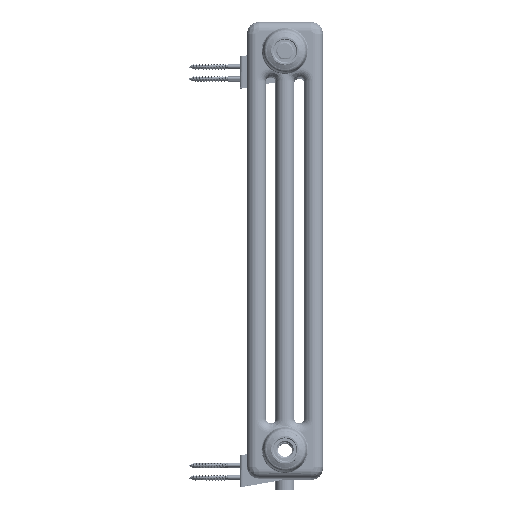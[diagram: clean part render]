
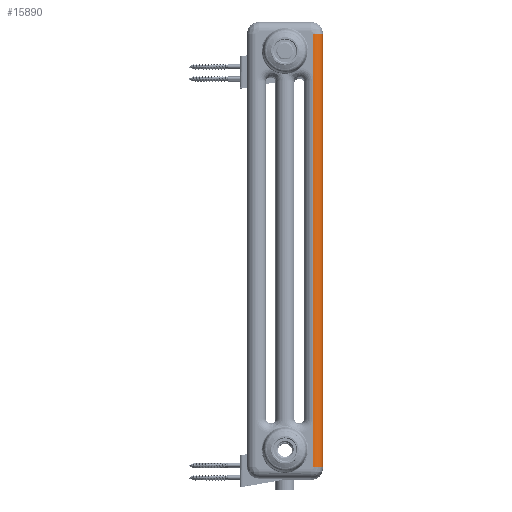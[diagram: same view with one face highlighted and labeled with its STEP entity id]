
A CAD part, top view. The second image highlights one B-rep face of the part: STEP entity #15890.
In plain terms, the highlighted cylindrical face has radius 12.5 mm (diameter 25 mm), a partial arc.
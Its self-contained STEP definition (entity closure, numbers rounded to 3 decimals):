
#6437=CIRCLE('',#128632,12.5);
#6461=CIRCLE('',#128669,12.5);
#15890=ADVANCED_FACE('',(#26022),#23967,.T.);
#23967=CYLINDRICAL_SURFACE('',#128670,12.5);
#26022=FACE_OUTER_BOUND('',#34247,.T.);
#34247=EDGE_LOOP('',(#52265,#52266,#52267,#52268,#52269,#52270,#52271,#52272));
#42631=LINE('',#179565,#47074);
#42632=LINE('',#179588,#47075);
#42641=LINE('',#179667,#47084);
#42642=LINE('',#179668,#47085);
#42643=LINE('',#179670,#47086);
#42644=LINE('',#179674,#47087);
#47074=VECTOR('',#142596,1.);
#47075=VECTOR('',#142605,1.);
#47084=VECTOR('',#142682,1.);
#47085=VECTOR('',#142683,1.);
#47086=VECTOR('',#142686,1.);
#47087=VECTOR('',#142689,1.);
#52265=ORIENTED_EDGE('',*,*,#102721,.F.);
#52266=ORIENTED_EDGE('',*,*,#102722,.F.);
#52267=ORIENTED_EDGE('',*,*,#102723,.F.);
#52268=ORIENTED_EDGE('',*,*,#102720,.T.);
#52269=ORIENTED_EDGE('',*,*,#102688,.T.);
#52270=ORIENTED_EDGE('',*,*,#102686,.T.);
#52271=ORIENTED_EDGE('',*,*,#102684,.T.);
#52272=ORIENTED_EDGE('',*,*,#102719,.T.);
#91055=VERTEX_POINT('',#179558);
#91056=VERTEX_POINT('',#179562);
#91057=VERTEX_POINT('',#179566);
#91058=VERTEX_POINT('',#179570);
#91077=VERTEX_POINT('',#179664);
#91078=VERTEX_POINT('',#179666);
#91079=VERTEX_POINT('',#179671);
#91080=VERTEX_POINT('',#179673);
#102684=EDGE_CURVE('',#91057,#91055,#42631,.T.);
#102686=EDGE_CURVE('',#91058,#91057,#6437,.T.);
#102688=EDGE_CURVE('',#91056,#91058,#42632,.T.);
#102719=EDGE_CURVE('',#91055,#91078,#42641,.T.);
#102720=EDGE_CURVE('',#91077,#91056,#42642,.T.);
#102721=EDGE_CURVE('',#91079,#91078,#42643,.T.);
#102722=EDGE_CURVE('',#91080,#91079,#6461,.T.);
#102723=EDGE_CURVE('',#91077,#91080,#42644,.T.);
#128632=AXIS2_PLACEMENT_3D('',#179569,#142601,#142602);
#128669=AXIS2_PLACEMENT_3D('',#179672,#142687,#142688);
#128670=AXIS2_PLACEMENT_3D('',#179675,#142690,#142691);
#142596=DIRECTION('',(0.,1.,0.));
#142601=DIRECTION('',(0.,1.,0.));
#142602=DIRECTION('',(0.,0.,1.));
#142605=DIRECTION('',(0.,-1.,0.));
#142682=DIRECTION('',(0.,1.,0.));
#142683=DIRECTION('',(0.,-1.,0.));
#142686=DIRECTION('',(0.,-1.,0.));
#142687=DIRECTION('',(0.,1.,0.));
#142688=DIRECTION('',(0.,0.,1.));
#142689=DIRECTION('',(0.,1.,0.));
#142690=DIRECTION('',(0.,-1.,0.));
#142691=DIRECTION('',(0.,0.,1.));
#179558=CARTESIAN_POINT('',(87.5,78.,-35.));
#179562=CARTESIAN_POINT('',(87.5,78.,-10.));
#179565=CARTESIAN_POINT('',(87.5,15.5,-35.));
#179566=CARTESIAN_POINT('',(87.5,15.5,-35.));
#179569=CARTESIAN_POINT('',(87.5,15.5,-22.5));
#179570=CARTESIAN_POINT('',(87.5,15.5,-10.));
#179588=CARTESIAN_POINT('',(87.5,78.,-10.));
#179664=CARTESIAN_POINT('',(87.5,522.,-10.));
#179666=CARTESIAN_POINT('',(87.5,522.,-35.));
#179667=CARTESIAN_POINT('',(87.5,78.,-35.));
#179668=CARTESIAN_POINT('',(87.5,522.,-10.));
#179670=CARTESIAN_POINT('',(87.5,584.5,-35.));
#179671=CARTESIAN_POINT('',(87.5,584.5,-35.));
#179672=CARTESIAN_POINT('',(87.5,584.5,-22.5));
#179673=CARTESIAN_POINT('',(87.5,584.5,-10.));
#179674=CARTESIAN_POINT('',(87.5,522.,-10.));
#179675=CARTESIAN_POINT('',(87.5,584.5,-22.5));
